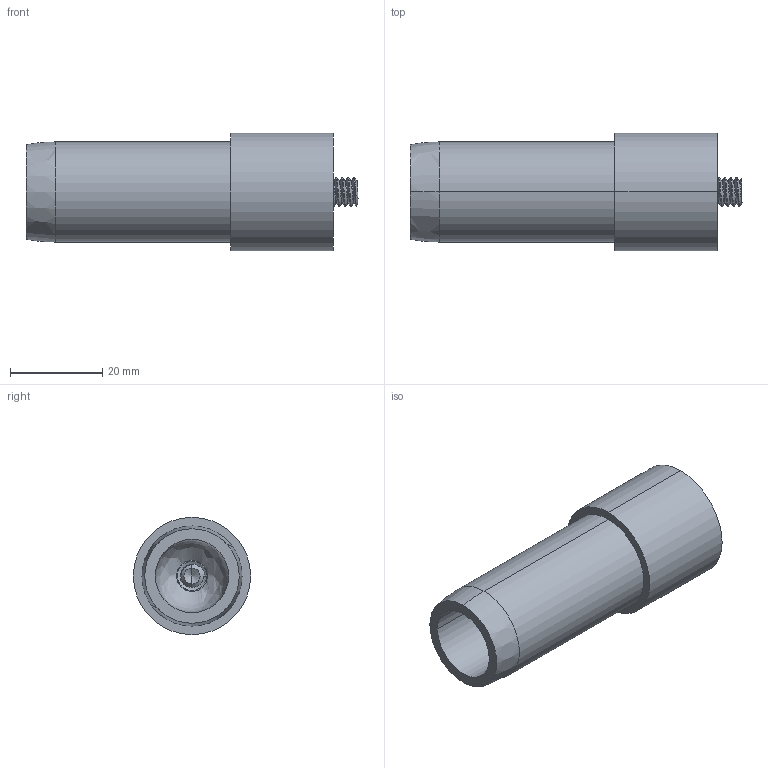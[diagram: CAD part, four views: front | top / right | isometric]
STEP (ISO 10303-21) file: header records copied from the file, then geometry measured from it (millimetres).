
FILE_DESCRIPTION (( 'STEP AP203' ), '1' );
FILE_NAME ('FDPCK-MODCON.875-END-STUD.step', '2019-09-11T18:38:49', ( 'ydmin' ), ( '' ), 'SwSTEP 2.0', 'SolidWorks 2017', '' );
FILE_SCHEMA (( 'CONFIG_CONTROL_DESIGN' ));
Length unit declared in the file: inch
Products named in the file (1): FDPCK-MODCON.875-END-STUD
Bounding box: 72.01 x 25.4 x 25.4 mm (x, y, z)
Volume: 19215.5 mm3; surface area: 9633.6 mm2
Topology: 3 solids, 3 shells, 85 faces, 212 edges, 130 vertices
Faces by surface type: cylinder 36, plane 18, cone 17, bspline 14
Entity records: 8388 total; most frequent: CARTESIAN_POINT 6580, ORIENTED_EDGE 412, DIRECTION 305, EDGE_CURVE 206, VERTEX_POINT 130, AXIS2_PLACEMENT_3D 113, EDGE_LOOP 90, FACE_OUTER_BOUND 85
